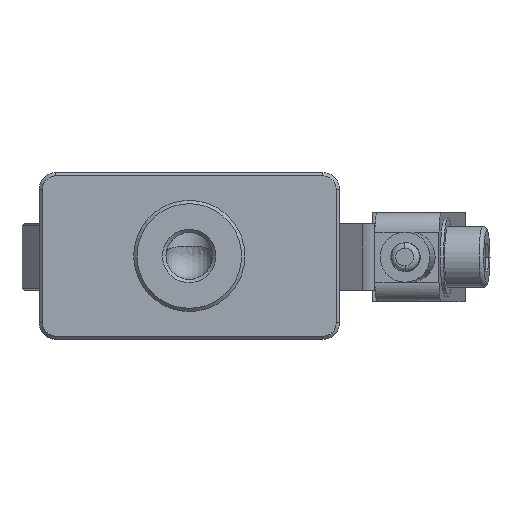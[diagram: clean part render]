
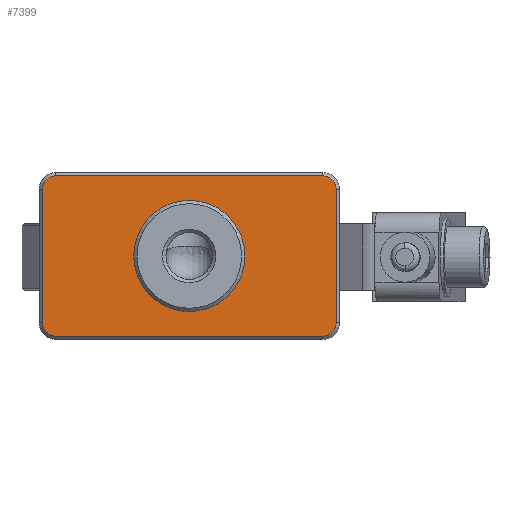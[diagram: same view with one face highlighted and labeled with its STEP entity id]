
A CAD part, front view. The second image highlights one B-rep face of the part: STEP entity #7399.
In plain terms, the highlighted planar face has unit normal (0, -1, 0).
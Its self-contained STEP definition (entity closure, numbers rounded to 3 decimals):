
#6571=FACE_BOUND('',#9953,.T.);
#6572=FACE_BOUND('',#9954,.T.);
#6981=CIRCLE('',#22824,1.2);
#6982=CIRCLE('',#22827,1.2);
#6983=CIRCLE('',#22829,5.);
#6992=CIRCLE('',#22850,1.2);
#6993=CIRCLE('',#22852,1.2);
#7399=ADVANCED_FACE('',(#6571,#6572),#8266,.T.);
#8266=PLANE('',#22853);
#9953=EDGE_LOOP('',(#11363));
#9954=EDGE_LOOP('',(#11364,#11365,#11366,#11367,#11368,#11369,#11370,#11371));
#11363=ORIENTED_EDGE('',*,*,#17018,.T.);
#11364=ORIENTED_EDGE('',*,*,#17015,.T.);
#11365=ORIENTED_EDGE('',*,*,#17017,.T.);
#11366=ORIENTED_EDGE('',*,*,#17009,.T.);
#11367=ORIENTED_EDGE('',*,*,#17012,.T.);
#11368=ORIENTED_EDGE('',*,*,#17020,.T.);
#11369=ORIENTED_EDGE('',*,*,#17041,.F.);
#11370=ORIENTED_EDGE('',*,*,#17042,.T.);
#11371=ORIENTED_EDGE('',*,*,#17040,.T.);
#15537=VERTEX_POINT('',#29067);
#15538=VERTEX_POINT('',#29069);
#15540=VERTEX_POINT('',#29075);
#15542=VERTEX_POINT('',#29081);
#15543=VERTEX_POINT('',#29083);
#15544=VERTEX_POINT('',#29089);
#15545=VERTEX_POINT('',#29105);
#15554=VERTEX_POINT('',#29200);
#15556=VERTEX_POINT('',#29206);
#17009=EDGE_CURVE('',#15537,#15538,#19122,.T.);
#17012=EDGE_CURVE('',#15538,#15540,#6981,.T.);
#17015=EDGE_CURVE('',#15543,#15542,#19126,.T.);
#17017=EDGE_CURVE('',#15542,#15537,#6982,.T.);
#17018=EDGE_CURVE('',#15544,#15544,#6983,.T.);
#17020=EDGE_CURVE('',#15540,#15545,#19128,.T.);
#17040=EDGE_CURVE('',#15554,#15543,#6992,.T.);
#17041=EDGE_CURVE('',#15556,#15545,#6993,.T.);
#17042=EDGE_CURVE('',#15556,#15554,#19138,.T.);
#19122=LINE('',#29070,#20947);
#19126=LINE('',#29082,#20951);
#19128=LINE('',#29104,#20953);
#19138=LINE('',#29207,#20963);
#20947=VECTOR('',#24320,1.);
#20951=VECTOR('',#24332,1.);
#20953=VECTOR('',#24346,1.);
#20963=VECTOR('',#24398,1.);
#22824=AXIS2_PLACEMENT_3D('',#29076,#24326,#24327);
#22827=AXIS2_PLACEMENT_3D('',#29086,#24336,#24337);
#22829=AXIS2_PLACEMENT_3D('',#29088,#24340,#24341);
#22850=AXIS2_PLACEMENT_3D('',#29203,#24392,#24393);
#22852=AXIS2_PLACEMENT_3D('',#29205,#24396,#24397);
#22853=AXIS2_PLACEMENT_3D('',#29208,#24399,#24400);
#24320=DIRECTION('',(-1.,0.,0.));
#24326=DIRECTION('',(0.,-1.,0.));
#24327=DIRECTION('',(0.,0.,1.));
#24332=DIRECTION('',(0.,0.,1.));
#24336=DIRECTION('',(0.,-1.,0.));
#24337=DIRECTION('',(0.,0.,1.));
#24340=DIRECTION('',(0.,1.,0.));
#24341=DIRECTION('',(0.,0.,-1.));
#24346=DIRECTION('',(0.,0.,-1.));
#24392=DIRECTION('',(0.,-1.,0.));
#24393=DIRECTION('',(0.,0.,1.));
#24396=DIRECTION('',(0.,1.,0.));
#24397=DIRECTION('',(0.,0.,1.));
#24398=DIRECTION('',(1.,0.,0.));
#24399=DIRECTION('',(0.,-1.,0.));
#24400=DIRECTION('',(0.,0.,-1.));
#29067=CARTESIAN_POINT('',(100.412,-23.942,82.1));
#29069=CARTESIAN_POINT('',(76.412,-23.942,82.1));
#29070=CARTESIAN_POINT('',(100.912,-23.942,82.1));
#29075=CARTESIAN_POINT('',(75.212,-23.942,80.9));
#29076=CARTESIAN_POINT('',(76.412,-23.942,80.9));
#29081=CARTESIAN_POINT('',(101.612,-23.942,80.9));
#29082=CARTESIAN_POINT('',(101.612,-23.942,82.4));
#29083=CARTESIAN_POINT('',(101.612,-23.942,68.9));
#29086=CARTESIAN_POINT('',(100.412,-23.942,80.9));
#29088=CARTESIAN_POINT('',(88.412,-23.942,74.9));
#29089=CARTESIAN_POINT('',(88.412,-23.942,69.9));
#29104=CARTESIAN_POINT('',(75.212,-23.942,82.4));
#29105=CARTESIAN_POINT('',(75.212,-23.942,68.9));
#29200=CARTESIAN_POINT('',(100.412,-23.942,67.7));
#29203=CARTESIAN_POINT('',(100.412,-23.942,68.9));
#29205=CARTESIAN_POINT('',(76.412,-23.942,68.9));
#29206=CARTESIAN_POINT('',(76.412,-23.942,67.7));
#29207=CARTESIAN_POINT('',(100.912,-23.942,67.7));
#29208=CARTESIAN_POINT('',(100.912,-23.942,82.4));
